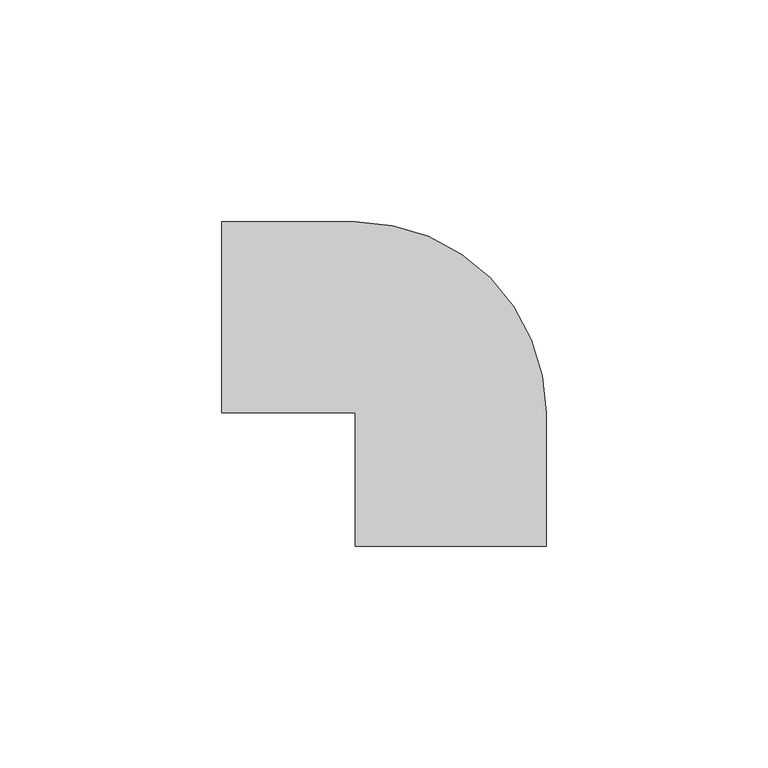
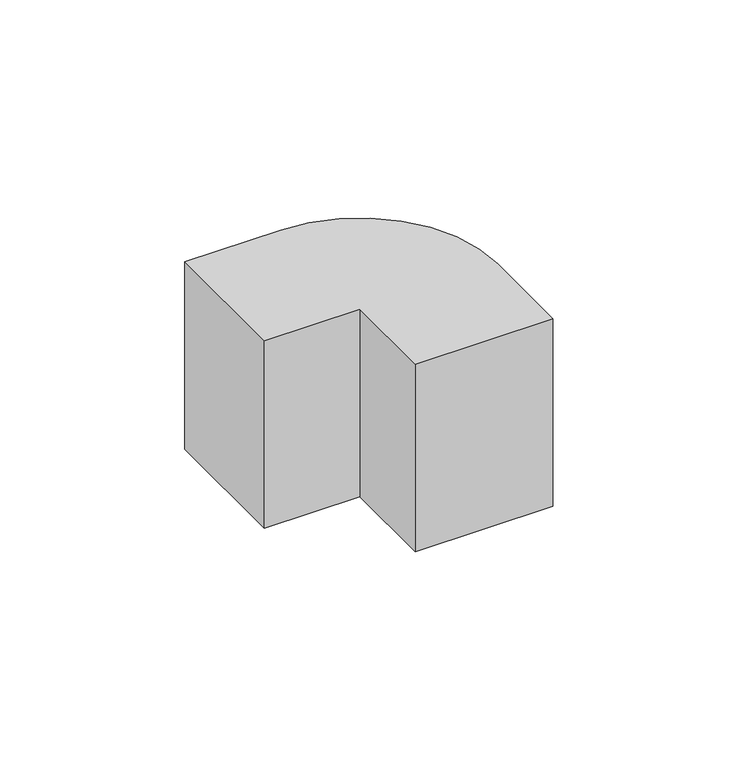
"""IFC4 building model written with IfcOpenShell, lengths in millimetres: proxy geometry, Внешний_угол_КМН : Внешний угол КМН 60х40."""

from ifc_helpers import new_model, si_unit, point, origin, origin_with_axes, origin_2d, place, context, project, spatial, polyline, circle_curve, trimmed, segment, composite_curve, outline, extrude, source, transform, mapped, element, save


def generic_models_b20aceb6(model_context):
    return source(origin(), model_context, "Body", "SweptSolid", [
        extrude(outline(composite_curve([segment(polyline([(-30.0, 0.0), (-30.0, 43.0214103), (0.0, 43.0214103)]), True, "CONTINUOUS"), segment(trimmed(circle_curve(origin_2d(), 43.0214103), [point((0.0, 43.0214103))], [point((43.0214103, 0.0))], False, "CARTESIAN"), True, "CONTINUOUS"), segment(polyline([(43.0214103, 0.0), (43.0214103, -30.0), (0.0, -30.0), (0.0, 0.0), (-30.0, 0.0)]), True, "CONTINUOUS")], self_intersect=False)), origin_with_axes(), (0.0, 0.0, 1.0), 61.9770043),
    ])


if __name__ == "__main__":
    model = new_model("IFC4")
    model_context = context("Model", 3, world=origin())
    ifc_project = project(units=[si_unit("LENGTHUNIT", "METRE", prefix="MILLI")], contexts=[model_context])
    site = spatial("IfcSite", under=ifc_project)
    building = spatial("IfcBuilding", under=site)
    placement = place(None, origin())
    generic_models_shape = generic_models_b20aceb6(model_context)
    element("IfcBuildingElementProxy", 1, Name="Внешний_угол_КМН : Внешний угол КМН 60х40", ObjectType="Внешний_угол_КМН : Внешний угол КМН 60х40", at=placement, inside=building, context=model_context, shape_type="MappedRepresentation", body=[
        mapped(generic_models_shape, transform((0.0, 0.0, 0.0), x_axis=(1.0, 0.0, 0.0), y_axis=(0.0, 1.0, 0.0), z_axis=(0.0, 0.0, 1.0))),
    ])
    save(model, "model.ifc")
